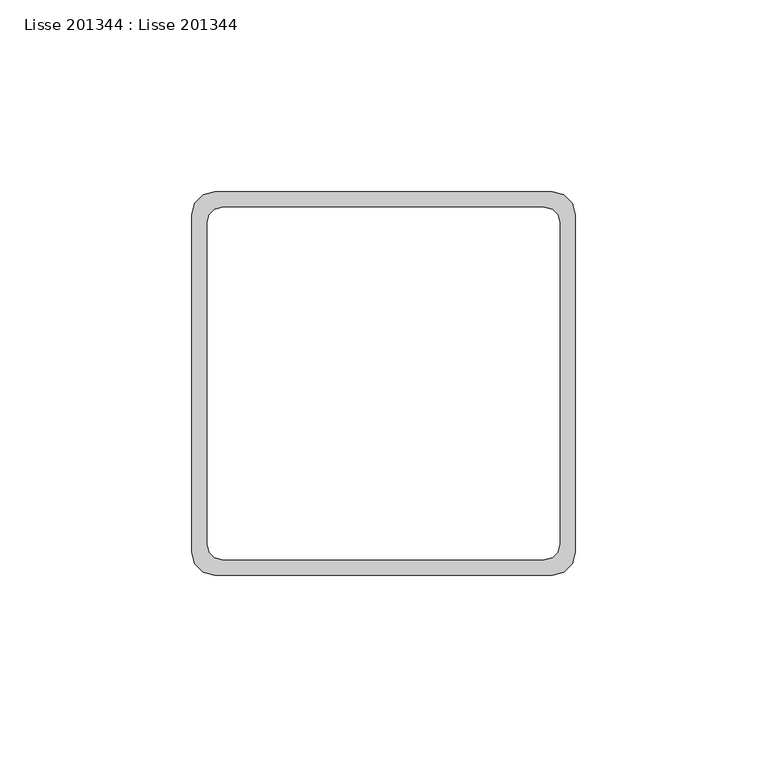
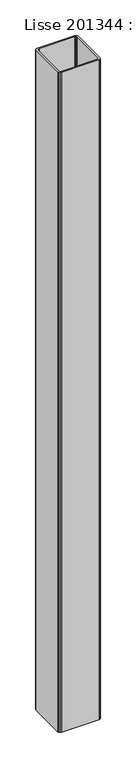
"""IFC4 building model written with IfcOpenShell, lengths in millimetres: beam geometry, Lisse 201344 : Lisse 201344."""

from ifc_helpers import new_model, si_unit, frame, origin, place, context, project, spatial, polyline, outline, extrude, source, transform, mapped, element, save


def lisse_201344_lisse_201344_5269d4d3(model_context):
    return source(origin(), model_context, "Body", "SweptSolid", [
        extrude(outline(polyline([(-180.0000001, -1306.0), (-179.1961526, -1303.0), (-177.0000001, -1300.8038476), (-174.0000001, -1300.0), (-86.0000001, -1300.0), (-83.0000001, -1300.8038476), (-80.8038477, -1303.0), (-80.0000001, -1306.0), (-80.0000001, -1394.0), (-80.8038477, -1397.0), (-83.0000001, -1399.1961524), (-86.0000001, -1400.0), (-174.0000001, -1400.0), (-177.0000001, -1399.1961524), (-179.1961526, -1397.0), (-180.0000001, -1394.0), (-180.0000001, -1306.0)]), holes=[polyline([(-176.0000001, -1392.0), (-175.4641017, -1394.0), (-174.0000001, -1395.4641016), (-172.0000001, -1396.0), (-88.0000001, -1396.0), (-86.0000001, -1395.4641016), (-84.5358985, -1394.0), (-84.0000001, -1392.0), (-84.0000001, -1308.0), (-84.5358985, -1306.0), (-86.0000001, -1304.5358984), (-88.0000001, -1304.0), (-172.0000001, -1304.0), (-174.0000001, -1304.5358984), (-175.4641017, -1306.0), (-176.0000001, -1308.0), (-176.0000001, -1392.0)])]), frame((0.0, 0.0, 1100.0), z_axis=(0.0, 0.0, 1.0), x_axis=(1.0, 0.0, 0.0)), (0.0, 0.0, 1.0), 1650.8038476),
    ])


if __name__ == "__main__":
    model = new_model("IFC4")
    model_context = context("Model", 3, world=origin())
    ifc_project = project(units=[si_unit("LENGTHUNIT", "METRE", prefix="MILLI")], contexts=[model_context])
    site = spatial("IfcSite", under=ifc_project)
    building = spatial("IfcBuilding", under=site)
    placement = place(None, origin())
    lisse_201344_lisse_201344_shape = lisse_201344_lisse_201344_5269d4d3(model_context)
    element("IfcBeam", 1, ObjectType="Lisse 201344 : Lisse 201344", at=placement, inside=building, context=model_context, shape_type="MappedRepresentation", body=[
        mapped(lisse_201344_lisse_201344_shape, transform((0.0, 0.0, 0.0), x_axis=(1.0, 0.0, 0.0), y_axis=(0.0, 1.0, 0.0), z_axis=(0.0, 0.0, 1.0))),
    ])
    save(model, "model.ifc")
